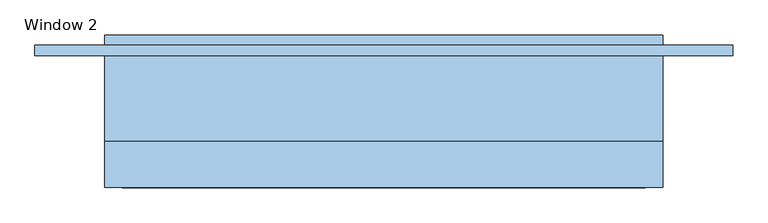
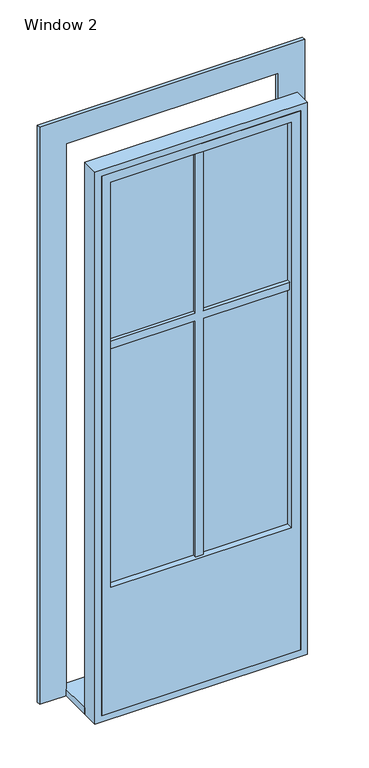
"""IFC4 building model written with IfcOpenShell, lengths in millimetres: window geometry, Window 2 : 800/2200."""

from ifc_helpers import new_model, si_unit, frame, origin, origin_with_axes, place, context, project, spatial, polyline, outline, extrude, source, transform, mapped, element, save


def window_2_7caaedc8(model_context):
    return source(origin(), model_context, "Body", "SweptSolid", [
        extrude(outline(polyline([(400.0, 26.9623738), (-400.0, 26.9623738), (-400.0, 180.0), (400.0, 180.0), (400.0, 26.9623738)])), origin_with_axes(), (0.0, 0.0, 1.0), 25.0),
        extrude(outline(polyline([(2175.0, -375.0), (25.0, -375.0), (25.0, 375.0), (2175.0, 375.0), (2175.0, -375.0)]), holes=[polyline([(2140.0, -340.0), (2140.0, 340.0), (525.0, 340.0), (525.0, -340.0), (2140.0, -340.0)])]), frame((0.0, -39.0188131, 0.0), z_axis=(0.0, 1.0, 0.0), x_axis=(0.0, 0.0, 1.0)), (0.0, 0.0, 1.0), 50.5),
        extrude(outline(polyline([(0.0, -400.0), (0.0, 400.0), (2200.0, 400.0), (2200.0, -400.0), (0.0, -400.0)]), holes=[polyline([(25.0, -375.0), (2175.0, -375.0), (2175.0, 375.0), (25.0, 375.0), (25.0, -375.0)])]), frame((0.0, -39.0188131, 0.0), z_axis=(0.0, 1.0, 0.0), x_axis=(0.0, 0.0, 1.0)), (0.0, 0.0, 1.0), 65.9811869),
        extrude(outline(polyline([(2200.0, -400.0), (2200.0, 400.0), (0.0, 400.0), (0.0, 500.0), (2300.0, 500.0), (2300.0, -500.0), (0.0, -500.0), (0.0, -400.0), (2200.0, -400.0)])), frame((0.0, 150.0, 0.0), z_axis=(0.0, 1.0, 0.0), x_axis=(0.0, 0.0, 1.0)), (0.0, 0.0, 1.0), 15.0),
        extrude(outline(polyline([(1497.5, 340.0), (1497.5, 15.0), (2140.0, 15.0), (2140.0, -15.0), (1497.5, -15.0), (1497.5, -340.0), (1467.5, -340.0), (1467.5, -15.0), (525.0, -15.0), (525.0, 15.0), (1467.5, 15.0), (1467.5, 340.0), (1497.5, 340.0)])), frame((0.0, -28.5188131, 0.0), z_axis=(0.0, 1.0, 0.0), x_axis=(0.0, 0.0, 1.0)), (0.0, 0.0, 1.0), 20.0),
        extrude(outline(polyline([(340.0, -15.5188131), (-340.0, -15.5188131), (-340.0, -13.5188131), (340.0, -13.5188131), (340.0, -15.5188131)])), frame((0.0, 0.0, 525.0), z_axis=(0.0, 0.0, 1.0), x_axis=(1.0, 0.0, 0.0)), (0.0, 0.0, 1.0), 1615.0),
    ])


if __name__ == "__main__":
    model = new_model("IFC4")
    model_context = context("Model", 3, world=origin())
    ifc_project = project(units=[si_unit("LENGTHUNIT", "METRE", prefix="MILLI")], contexts=[model_context])
    site = spatial("IfcSite", under=ifc_project)
    building = spatial("IfcBuilding", under=site)
    placement = place(None, origin())
    window_2_shape = window_2_7caaedc8(model_context)
    element("IfcWindow", 1, ObjectType="Window 2 : 800/2200", at=placement, inside=building, context=model_context, shape_type="MappedRepresentation", body=[
        mapped(window_2_shape, transform((0.0, 0.0, 0.0), x_axis=(1.0, 0.0, 0.0), y_axis=(0.0, 1.0, 0.0), z_axis=(0.0, 0.0, 1.0))),
    ])
    save(model, "model.ifc")
